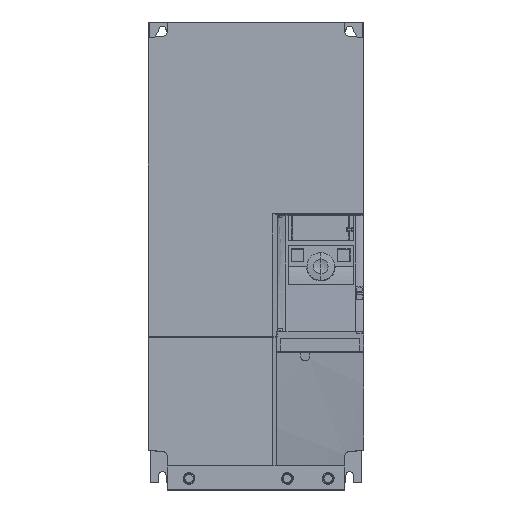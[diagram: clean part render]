
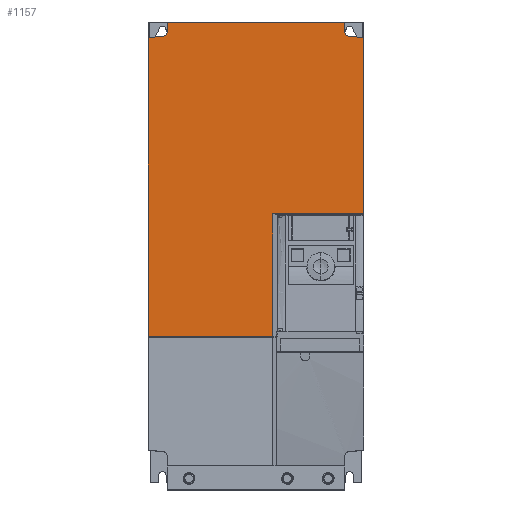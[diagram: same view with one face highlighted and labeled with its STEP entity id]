
A CAD part, top view. The second image highlights one B-rep face of the part: STEP entity #1157.
In plain terms, the highlighted planar face has unit normal (0, 0, 1).
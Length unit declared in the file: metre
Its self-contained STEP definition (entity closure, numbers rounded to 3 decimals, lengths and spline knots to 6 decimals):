
#1157=ADVANCED_FACE('',(#5623),#5624,.T.);
#5623=FACE_OUTER_BOUND('',#13694,.T.);
#5624=PLANE('',#13695);
#13694=EDGE_LOOP('',(#25299,#25300,#25301,#25302,#25303,#25304,#25305,#25306,#25307,#25308,#25309,#25310));
#13695=AXIS2_PLACEMENT_3D('',#25311,#25312,#25313);
#25299=ORIENTED_EDGE('',*,*,#55613,.T.);
#25300=ORIENTED_EDGE('',*,*,#55614,.T.);
#25301=ORIENTED_EDGE('',*,*,#55615,.F.);
#25302=ORIENTED_EDGE('',*,*,#55616,.T.);
#25303=ORIENTED_EDGE('',*,*,#55617,.T.);
#25304=ORIENTED_EDGE('',*,*,#55618,.T.);
#25305=ORIENTED_EDGE('',*,*,#55619,.F.);
#25306=ORIENTED_EDGE('',*,*,#55620,.F.);
#25307=ORIENTED_EDGE('',*,*,#55621,.F.);
#25308=ORIENTED_EDGE('',*,*,#55612,.F.);
#25309=ORIENTED_EDGE('',*,*,#55162,.F.);
#25310=ORIENTED_EDGE('',*,*,#55622,.T.);
#25311=CARTESIAN_POINT('',(0.0,-0.178,0.2105));
#25312=DIRECTION('',(0.0,0.0,1.0));
#25313=DIRECTION('',(1.0,-0.0,0.0));
#55162=EDGE_CURVE('',#67709,#67711,#67712,.T.);
#55612=EDGE_CURVE('',#67711,#68408,#68411,.T.);
#55613=EDGE_CURVE('',#68412,#68413,#68414,.T.);
#55614=EDGE_CURVE('',#68413,#68415,#68416,.T.);
#55615=EDGE_CURVE('',#68417,#68415,#68418,.T.);
#55616=EDGE_CURVE('',#68417,#68419,#68420,.T.);
#55617=EDGE_CURVE('',#68419,#68421,#68422,.T.);
#55618=EDGE_CURVE('',#68421,#68423,#68424,.T.);
#55619=EDGE_CURVE('',#68425,#68423,#68426,.T.);
#55620=EDGE_CURVE('',#68427,#68425,#68428,.T.);
#55621=EDGE_CURVE('',#68408,#68427,#68429,.T.);
#55622=EDGE_CURVE('',#67709,#68412,#68430,.T.);
#67709=VERTEX_POINT('',#86082);
#67711=VERTEX_POINT('',#86085);
#67712=LINE('',#86086,#86087);
#68408=VERTEX_POINT('',#87030);
#68411=LINE('',#87035,#87036);
#68412=VERTEX_POINT('',#87037);
#68413=VERTEX_POINT('',#87038);
#68414=CIRCLE('',#87039,0.004);
#68415=VERTEX_POINT('',#87040);
#68416=LINE('',#87041,#87042);
#68417=VERTEX_POINT('',#87043);
#68418=LINE('',#87044,#87045);
#68419=VERTEX_POINT('',#87046);
#68420=LINE('',#87047,#87048);
#68421=VERTEX_POINT('',#87049);
#68422=CIRCLE('',#87050,0.004);
#68423=VERTEX_POINT('',#87051);
#68424=LINE('',#87052,#87053);
#68425=VERTEX_POINT('',#87054);
#68426=LINE('',#87055,#87056);
#68427=VERTEX_POINT('',#87057);
#68428=LINE('',#87058,#87059);
#68429=LINE('',#87060,#87061);
#68430=LINE('',#87062,#87063);
#86082=CARTESIAN_POINT('',(0.09,0.179,0.2105));
#86085=CARTESIAN_POINT('',(0.09,0.032,0.2105));
#86086=CARTESIAN_POINT('',(0.09,0.179,0.2105));
#86087=VECTOR('',#110302,0.147);
#87030=CARTESIAN_POINT('',(0.0139,0.032,0.2105));
#87035=CARTESIAN_POINT('',(0.09,0.032,0.2105));
#87036=VECTOR('',#111152,0.0761);
#87037=CARTESIAN_POINT('',(0.077651,0.18008,0.2105));
#87038=CARTESIAN_POINT('',(0.074,0.184065,0.2105));
#87039=AXIS2_PLACEMENT_3D('',#111153,#111154,#111155);
#87040=CARTESIAN_POINT('',(0.074,0.192,0.2105));
#87041=CARTESIAN_POINT('',(0.074,0.184065,0.2105));
#87042=VECTOR('',#111156,0.007935);
#87043=CARTESIAN_POINT('',(-0.074,0.192,0.2105));
#87044=CARTESIAN_POINT('',(-0.074,0.192,0.2105));
#87045=VECTOR('',#111157,0.148);
#87046=CARTESIAN_POINT('',(-0.074,0.184065,0.2105));
#87047=CARTESIAN_POINT('',(-0.074,0.192,0.2105));
#87048=VECTOR('',#111158,0.007935);
#87049=CARTESIAN_POINT('',(-0.077651,0.18008,0.2105));
#87050=AXIS2_PLACEMENT_3D('',#111159,#111160,#111161);
#87051=CARTESIAN_POINT('',(-0.09,0.179,0.2105));
#87052=CARTESIAN_POINT('',(-0.077651,0.18008,0.2105));
#87053=VECTOR('',#111162,0.012396);
#87054=CARTESIAN_POINT('',(-0.09,-0.07027,0.2105));
#87055=CARTESIAN_POINT('',(-0.09,-0.07027,0.2105));
#87056=VECTOR('',#111163,0.24927);
#87057=CARTESIAN_POINT('',(0.0139,-0.07027,0.2105));
#87058=CARTESIAN_POINT('',(0.0139,-0.07027,0.2105));
#87059=VECTOR('',#111164,0.1039);
#87060=CARTESIAN_POINT('',(0.0139,0.032,0.2105));
#87061=VECTOR('',#111165,0.10227);
#87062=CARTESIAN_POINT('',(0.09,0.179,0.2105));
#87063=VECTOR('',#111166,0.012396);
#110302=DIRECTION('',(0.0,-1.0,0.0));
#111152=DIRECTION('',(-1.0,0.0,0.0));
#111153=CARTESIAN_POINT('',(0.078,0.184065,0.2105));
#111154=DIRECTION('',(-0.0,0.0,-1.0));
#111155=DIRECTION('',(-0.087,-0.996,0.0));
#111156=DIRECTION('',(0.0,1.0,0.0));
#111157=DIRECTION('',(1.0,0.0,0.0));
#111158=DIRECTION('',(0.0,-1.0,0.0));
#111159=CARTESIAN_POINT('',(-0.078,0.184065,0.2105));
#111160=DIRECTION('',(0.0,0.0,-1.0));
#111161=DIRECTION('',(1.0,0.,0.0));
#111162=DIRECTION('',(-0.996,-0.087,0.0));
#111163=DIRECTION('',(0.0,1.0,0.0));
#111164=DIRECTION('',(-1.0,0.0,0.0));
#111165=DIRECTION('',(0.0,-1.0,0.0));
#111166=DIRECTION('',(-0.996,0.087,0.0));
